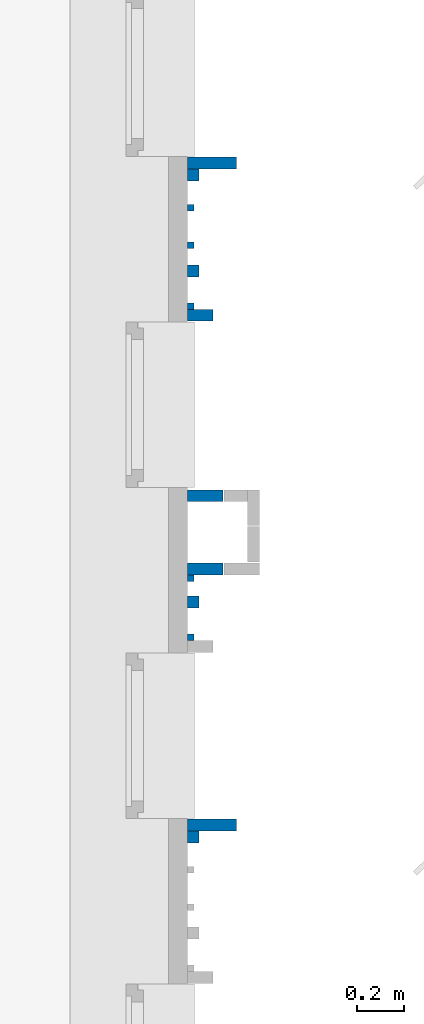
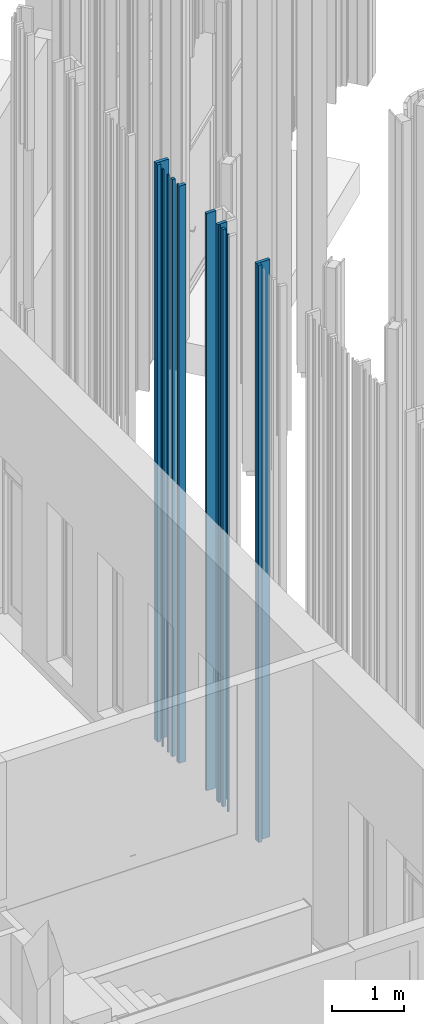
# One storey, part 190 of 390: 14 walls.
"""IFC2X3 building model written with IfcOpenShell, lengths in millimetres."""

from ifc_helpers import new_model, entity, si_unit, converted_unit, derived_unit, money_unit, direction, frame, origin_with_axes, place, context, subcontext, project, spatial, faceted_brep, material, type_object, element, save


model = new_model("IFC2X3")

# Units and contexts
model_context = context("Model", 3, precision=1e-05, world=origin_with_axes(), true_north=direction((0.0, 1.0)))
body_context = subcontext(model_context, "Body", "Model", "MODEL_VIEW")
ifc_project = project(units=[si_unit("LENGTHUNIT", "METRE", prefix="MILLI"), si_unit("AREAUNIT", "SQUARE_METRE"), si_unit("VOLUMEUNIT", "CUBIC_METRE"), converted_unit("PLANEANGLEUNIT", "DEGREE", entity("IfcPlaneAngleMeasure", 0.0174532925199), si_unit("PLANEANGLEUNIT", "RADIAN"), dimensions=[0, 0, 0, 0, 0, 0, 0]), si_unit("SOLIDANGLEUNIT", "STERADIAN"), money_unit("EUR"), converted_unit("TIMEUNIT", "Year", entity("IfcTimeMeasure", 31556926.0), si_unit("TIMEUNIT", "SECOND"), dimensions=[0, 0, 1, 0, 0, 0, 0]), si_unit("MASSUNIT", "GRAM", prefix="KILO"), si_unit("THERMODYNAMICTEMPERATUREUNIT", "DEGREE_CELSIUS"), si_unit("LUMINOUSINTENSITYUNIT", "LUMEN"), si_unit("ENERGYUNIT", "JOULE", prefix="MEGA"), derived_unit("THERMALCONDUCTANCEUNIT", [(si_unit("POWERUNIT", "WATT"), 1), (si_unit("LENGTHUNIT", "METRE"), -1), (si_unit("THERMODYNAMICTEMPERATUREUNIT", "KELVIN"), -1)]), derived_unit("SPECIFICHEATCAPACITYUNIT", [(si_unit("ENERGYUNIT", "JOULE"), 1), (si_unit("MASSUNIT", "GRAM", prefix="KILO"), -1), (si_unit("THERMODYNAMICTEMPERATUREUNIT", "KELVIN"), -1)]), derived_unit("MASSDENSITYUNIT", [(si_unit("MASSUNIT", "GRAM", prefix="KILO"), 1), (si_unit("VOLUMEUNIT", "CUBIC_METRE"), -1)])], contexts=[model_context])

# Site, building, storey
site_placement = place(None, origin_with_axes())
site = spatial("IfcSite", under=ifc_project, at=site_placement, Name="Site", CompositionType="ELEMENT")
building_placement = place(site_placement, origin_with_axes())
building = spatial("IfcBuilding", under=site, at=building_placement, Name="Building", CompositionType="ELEMENT")
storey_placement = place(building_placement, origin_with_axes())
storey = spatial("IfcBuildingStorey", under=building, at=storey_placement, Name="1 korrus", CompositionType="ELEMENT", Elevation=0.0)

# Walls
ifc_material = material(Name="Site specified")
wall_type_1 = type_object("IfcWallType", Name="Puitfassaadi ribistik", PredefinedType="NOTDEFINED")
wall_1_placement = place(storey_placement, frame((139891.499998, 62172.0000087, 100.000000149), z_axis=(0.0, 0.0, 1.0), x_axis=(0.0, -1.0, 0.0)))
element("IfcWall", 1, at=wall_1_placement, inside=storey, type_object=wall_type_1, material=ifc_material, Name="Site specified", context=body_context, shape_type="Brep", body=[
    faceted_brep([(-25.0, -104.5, 9764.99999985), (-25.0, -104.5, 0.0), (25.0, -104.5, 0.0), (25.0, -104.5, 9764.99999985), (-25.0, 104.5, 9764.99999985), (-25.0, 104.5, 0.0), (25.0, 104.5, 0.0), (25.0, 104.5, 9764.99999985)], [[[0, 1, 2, 3]], [[4, 5, 1, 0]], [[2, 1, 5, 6]], [[3, 2, 6, 7]], [[4, 0, 3, 7]], [[7, 6, 5, 4]]]),
])
wall_2_placement = place(storey_placement, frame((139841.499998, 61528.0000087, 100.000000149), z_axis=(0.0, 0.0, 1.0), x_axis=(0.0, -1.0, 0.0)))
element("IfcWall", 2, at=wall_2_placement, inside=storey, type_object=wall_type_1, material=ifc_material, Name="Site specified", context=body_context, shape_type="Brep", body=[
    faceted_brep([(-25.0, -54.5, 9764.99999985), (-25.0, -54.5, 0.0), (25.0, -54.5, 0.0), (25.0, -54.5, 9764.99999985), (-25.0, 54.5, 9764.99999985), (-25.0, 54.5, 0.0), (25.0, 54.5, 0.0), (25.0, 54.5, 9764.99999985)], [[[0, 1, 2, 3]], [[4, 5, 1, 0]], [[2, 1, 5, 6]], [[3, 2, 6, 7]], [[4, 0, 3, 7]], [[7, 6, 5, 4]]]),
])
for number, where, z_axis, x_axis, name in (
    (3, (139800.999998, 61567.0000087, 100.000000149), (0.0, 0.0, 1.0), (0.0, -1.0, 0.0), "Site specified"),
    (4, (139800.999998, 61825.0000087, 100.000000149), (0.0, 0.0, 1.0), (0.0, -1.0, 0.0), "Site specified"),
):
    element("IfcWall", number, at=place(storey_placement, frame(where, z_axis=z_axis, x_axis=x_axis)), inside=storey, type_object=wall_type_1, material=ifc_material, Name=name, context=body_context, shape_type="Brep", body=[
        faceted_brep([(-14.0, -14.0, 9764.99999985), (-14.0, -14.0, 0.0), (14.0, -14.0, 0.0), (14.0, -14.0, 9764.99999985), (-14.0, 14.0, 9764.99999985), (-14.0, 14.0, 0.0), (14.0, 14.0, 0.0), (14.0, 14.0, 9764.99999985)], [[[0, 1, 2, 3]], [[4, 5, 1, 0]], [[2, 1, 5, 6]], [[3, 2, 6, 7]], [[4, 0, 3, 7]], [[7, 6, 5, 4]]]),
    ])
for number, where, z_axis, x_axis, name in (
    (5, (139811.999998, 62122.0000087, 100.000000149), (0.0, 0.0, 1.0), (0.0, -1.0, 0.0), "Site specified"),
    (6, (139811.999998, 61716.0000087, 100.000000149), (0.0, 0.0, 1.0), (0.0, -1.0, 0.0), "Site specified"),
):
    element("IfcWall", number, at=place(storey_placement, frame(where, z_axis=z_axis, x_axis=x_axis)), inside=storey, type_object=wall_type_1, material=ifc_material, Name=name, context=body_context, shape_type="Brep", body=[
        faceted_brep([(-25.0, -25.0, 9764.99999985), (-25.0, -25.0, 0.0), (25.0, -25.0, 0.0), (25.0, -25.0, 9764.99999985), (-25.0, 25.0, 9764.99999985), (-25.0, 25.0, 0.0), (25.0, 25.0, 0.0), (25.0, 25.0, 9764.99999985)], [[[0, 1, 2, 3]], [[4, 5, 1, 0]], [[2, 1, 5, 6]], [[3, 2, 6, 7]], [[4, 0, 3, 7]], [[7, 6, 5, 4]]]),
    ])
for number, where, z_axis, x_axis, name in (
    (7, (139800.999998, 61983.0000087, 100.000000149), (0.0, 0.0, 1.0), (0.0, -1.0, 0.0), "Site specified"),
    (8, (139800.999998, 60167.0000087, 100.000000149), (0.0, 0.0, 1.0), (0.0, -1.0, 0.0), "Site specified"),
    (9, (139800.999998, 60416.0584894, 100.000000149), (0.0, 0.0, 1.0), (0.0, -1.0, 0.0), "Site specified"),
):
    element("IfcWall", number, at=place(storey_placement, frame(where, z_axis=z_axis, x_axis=x_axis)), inside=storey, type_object=wall_type_1, material=ifc_material, Name=name, context=body_context, shape_type="Brep", body=[
        faceted_brep([(-14.0, -14.0, 9764.99999985), (-14.0, -14.0, 0.0), (14.0, -14.0, 0.0), (14.0, -14.0, 9764.99999985), (-14.0, 14.0, 9764.99999985), (-14.0, 14.0, 0.0), (14.0, 14.0, 0.0), (14.0, 14.0, 9764.99999985)], [[[0, 1, 2, 3]], [[4, 5, 1, 0]], [[2, 1, 5, 6]], [[3, 2, 6, 7]], [[4, 0, 3, 7]], [[7, 6, 5, 4]]]),
    ])
wall_3_placement = place(storey_placement, frame((139811.999998, 60316.0000087, 100.000000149), z_axis=(0.0, 0.0, 1.0), x_axis=(0.0, -1.0, 0.0)))
element("IfcWall", 10, at=wall_3_placement, inside=storey, type_object=wall_type_1, material=ifc_material, Name="Site specified", context=body_context, shape_type="Brep", body=[
    faceted_brep([(-25.0, -25.0, 9764.99999985), (-25.0, -25.0, 0.0), (25.0, -25.0, 0.0), (25.0, -25.0, 9764.99999985), (-25.0, 25.0, 9764.99999985), (-25.0, 25.0, 0.0), (25.0, 25.0, 0.0), (25.0, 25.0, 9764.99999985)], [[[0, 1, 2, 3]], [[4, 5, 1, 0]], [[2, 1, 5, 6]], [[3, 2, 6, 7]], [[4, 0, 3, 7]], [[7, 6, 5, 4]]]),
])
wall_4_placement = place(storey_placement, frame((139891.499998, 59372.0000087, 100.000000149), z_axis=(0.0, 0.0, 1.0), x_axis=(0.0, -1.0, 0.0)))
element("IfcWall", 11, at=wall_4_placement, inside=storey, type_object=wall_type_1, material=ifc_material, Name="Site specified", context=body_context, shape_type="Brep", body=[
    faceted_brep([(-25.0, -104.5, 9764.99999985), (-25.0, -104.5, 0.0), (25.0, -104.5, 0.0), (25.0, -104.5, 9764.99999985), (-25.0, 104.5, 9764.99999985), (-25.0, 104.5, 0.0), (25.0, 104.5, 0.0), (25.0, 104.5, 9764.99999985)], [[[0, 1, 2, 3]], [[4, 5, 1, 0]], [[2, 1, 5, 6]], [[3, 2, 6, 7]], [[4, 0, 3, 7]], [[7, 6, 5, 4]]]),
])
wall_5_placement = place(storey_placement, frame((139811.999998, 59322.0000087, 100.000000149), z_axis=(0.0, 0.0, 1.0), x_axis=(0.0, -1.0, 0.0)))
element("IfcWall", 12, at=wall_5_placement, inside=storey, type_object=wall_type_1, material=ifc_material, Name="Site specified", context=body_context, shape_type="Brep", body=[
    faceted_brep([(-25.0, -25.0, 9764.99999985), (-25.0, -25.0, 0.0), (25.0, -25.0, 0.0), (25.0, -25.0, 9764.99999985), (-25.0, 25.0, 9764.99999985), (-25.0, 25.0, 0.0), (25.0, 25.0, 0.0), (25.0, 25.0, 9764.99999985)], [[[0, 1, 2, 3]], [[4, 5, 1, 0]], [[2, 1, 5, 6]], [[3, 2, 6, 7]], [[4, 0, 3, 7]], [[7, 6, 5, 4]]]),
])
wall_type_2 = type_object("IfcWallType", Name="Puitfassaadi ribisik", PredefinedType="NOTDEFINED")
for number, where, z_axis, x_axis, name in (
    (13, (139861.999993, 60765.0585075, 100.000000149), (0.0, 0.0, 1.0), (-1.92421249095e-07, -1.0, 0.0), "Site specified"),
    (14, (139862.000003, 60455.058475, 100.000000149), (0.0, 0.0, 1.0), (-1.92421249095e-07, -1.0, 0.0), "Site specified"),
):
    element("IfcWall", number, at=place(storey_placement, frame(where, z_axis=z_axis, x_axis=x_axis)), inside=storey, type_object=wall_type_2, material=ifc_material, Name=name, context=body_context, shape_type="Brep", body=[
        faceted_brep([(-25.0, -75.0, 9764.99999475), (-25.0, -75.0, 0.0), (25.0, -75.0, 0.0), (25.0, -75.0, 9764.99999475), (-25.0, 75.0, 9764.99999475), (-25.0, 75.0, 0.0), (25.0, 75.0, 0.0), (25.0, 75.0, 9764.99999475)], [[[0, 1, 2, 3]], [[4, 5, 1, 0]], [[2, 1, 5, 6]], [[3, 2, 6, 7]], [[4, 0, 3, 7]], [[7, 6, 5, 4]]]),
    ])

save(model, "model.ifc")
